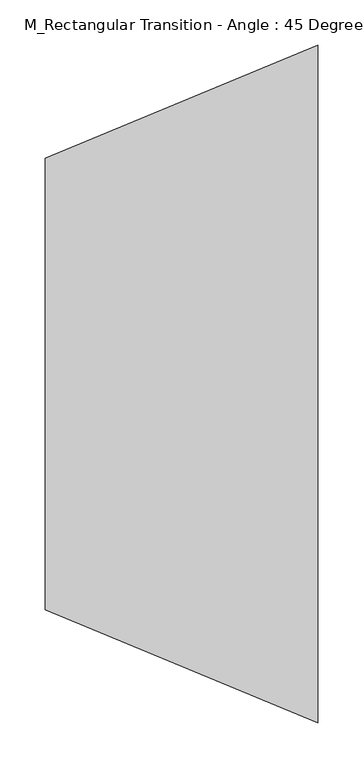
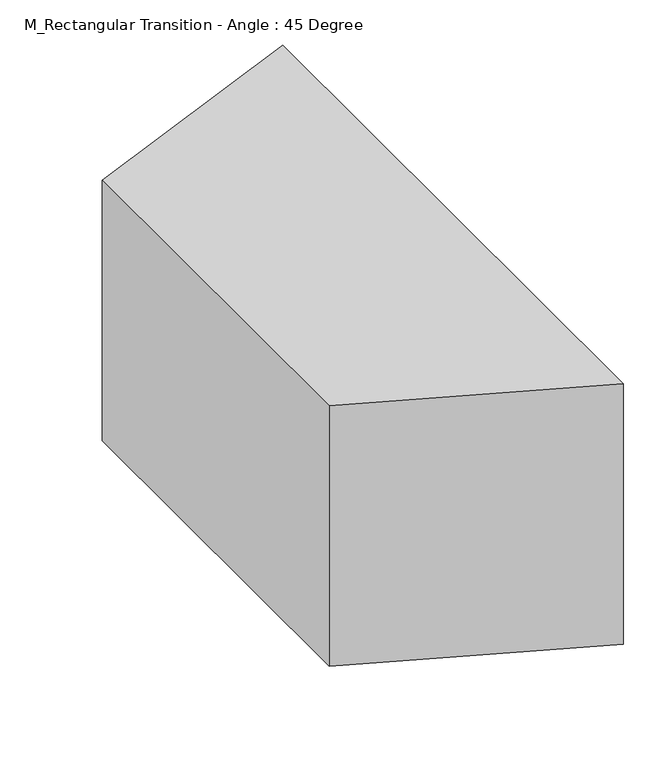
"""IFC4 building model written with IfcOpenShell, lengths in millimetres: duct fitting geometry, M_Rectangular Transition - Angle : 45 Degree."""

from ifc_helpers import new_model, si_unit, frame, origin, place, context, project, spatial, polyline, outline, extrude, source, transform, mapped, element, save


def m_rectangular_transition_angle_45_degree_d664cccb(model_context):
    return source(origin(), model_context, "Body", "SweptSolid", [
        extrude(outline(polyline([(-250.0, 0.0), (250.0, 0.0), (375.0, -301.7766953), (-375.0, -301.7766953), (-250.0, 0.0)])), frame((0.0, 0.0, -175.0), z_axis=(-1.0263676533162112e-12, 0.0, 1.0), x_axis=(0.0, 1.0, 0.0)), (0.0, 0.0, 1.0), 350.0),
        extrude(outline(polyline([(0.0, -250.0), (0.0, 250.0), (301.7766953, 375.0), (301.7766953, -375.0), (0.0, -250.0)])), frame((0.0, 0.0, -175.0), z_axis=(0.0, 0.0, 1.0), x_axis=(1.0, 0.0, 0.0)), (0.0, 0.0, 1.0), 350.0),
        extrude(outline(polyline([(0.0, -250.0), (0.0, 250.0), (301.7766953, 375.0), (301.7766953, -375.0), (0.0, -250.0)])), frame((0.0, 0.0, -175.0), z_axis=(0.0, 0.0, 1.0), x_axis=(1.0, 0.0, 0.0)), (0.0, 0.0, 1.0), 350.0),
    ])


if __name__ == "__main__":
    model = new_model("IFC4")
    model_context = context("Model", 3, world=origin())
    ifc_project = project(units=[si_unit("LENGTHUNIT", "METRE", prefix="MILLI")], contexts=[model_context])
    site = spatial("IfcSite", under=ifc_project)
    building = spatial("IfcBuilding", under=site)
    placement = place(None, origin())
    m_rectangular_transition_angle_45_degree_shape = m_rectangular_transition_angle_45_degree_d664cccb(model_context)
    element("IfcDuctFitting", 1, ObjectType="M_Rectangular Transition - Angle : 45 Degree", at=placement, inside=building, context=model_context, shape_type="MappedRepresentation", body=[
        mapped(m_rectangular_transition_angle_45_degree_shape, transform((0.0, 0.0, 0.0), x_axis=(1.0, 0.0, 0.0), y_axis=(0.0, 1.0, 0.0), z_axis=(0.0, 0.0, 1.0))),
    ])
    save(model, "model.ifc")
